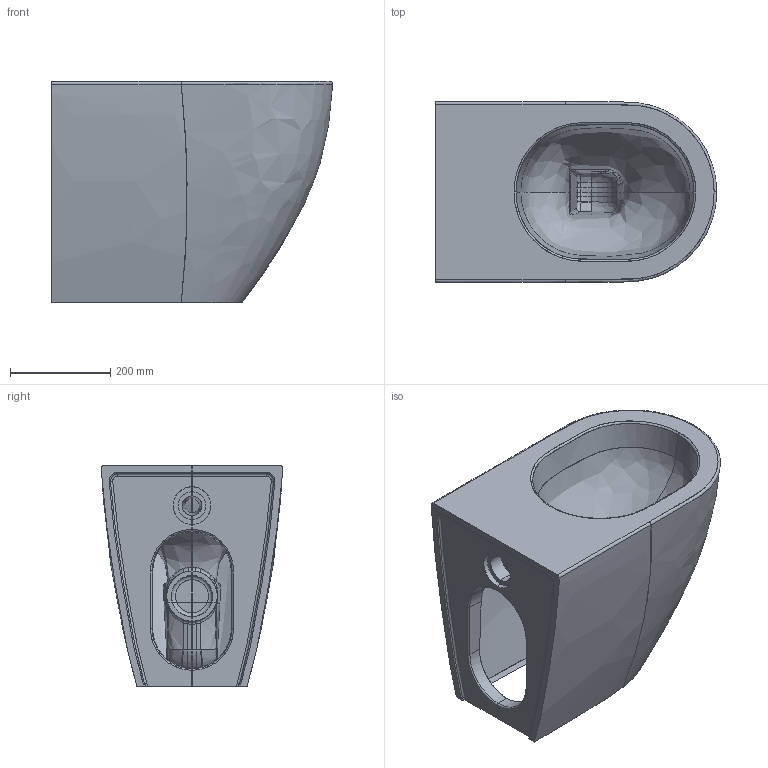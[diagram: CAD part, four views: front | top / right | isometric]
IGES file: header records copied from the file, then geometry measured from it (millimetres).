
Start section: START RECORD GO HERE.
Global section: file name: 7337_3D.igs; native system: DASSAULT SYSTEMES CATIA V5 R19 - www.3ds.com; preprocessor: CATIA Version 5 Release 19 SP 5 ; author: Luca; organization: DESKTOP-V7SON24; date: 20230123.125929; units: millimetre
Bounding box: 559.83 x 359.66 x 439.99 mm (x, y, z)
Surface area: 1146823.3 mm2 (no closed solid volume)
Topology: 0 solids, 0 shells, 275 faces, 2225 edges, 2213 vertices
Faces by surface type: bspline 228, plane 29, revolution 18
